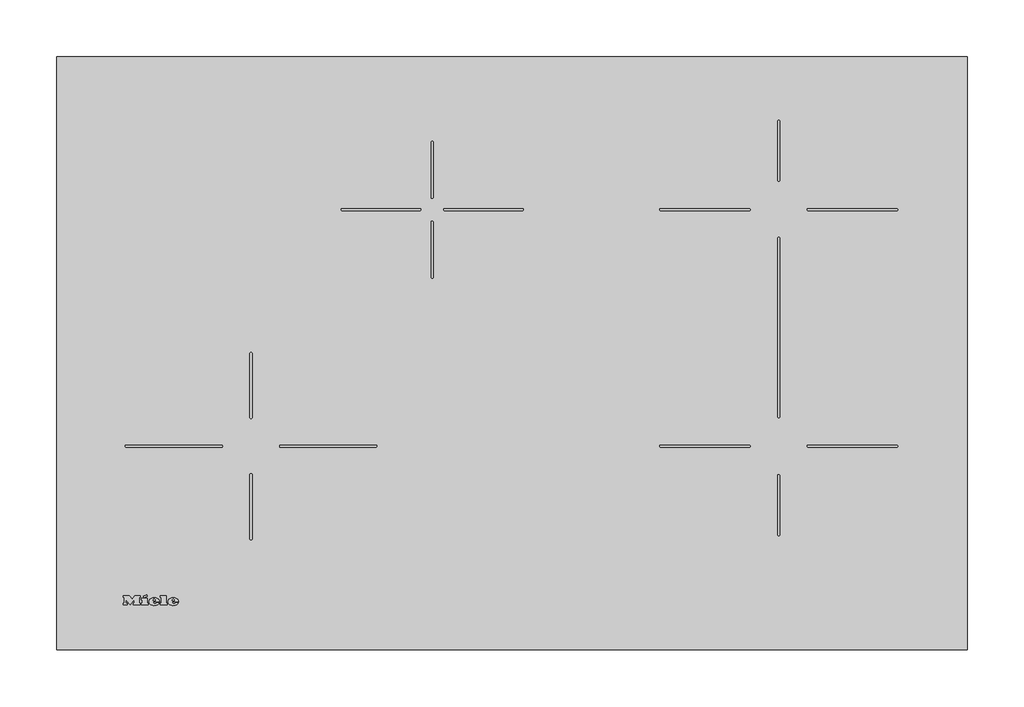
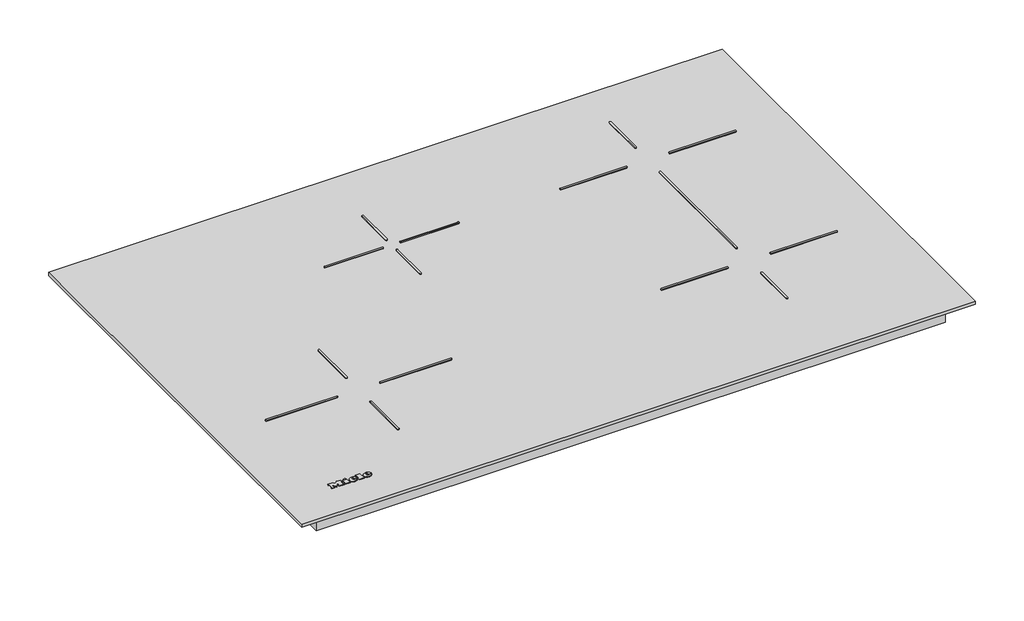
# Not in any storey: 1 proxy.
"""IFC4 building model written with IfcOpenShell, lengths in millimetres."""

import ifcopenshell
import ifcopenshell.guid

model = None  # the IFC model being written
_history = None  # IfcOwnerHistory: only IFC2X3 demands one
_inside = {}  # id of a spatial element -> (the spatial element, [elements in it])
_under = {}  # id of a project, library or spatial element -> (it, [spatial elements below it])
_declared = {}  # id of a project -> (the project, [libraries it declares])
_typed = {}  # id of a type object -> (the type object, [elements of that type])
_made_of = {}  # id of a material, layer set ... -> (it, [elements and type objects made of it])


def new_model(schema):
    """Start an empty IFC model of exactly this schema.

    Asked for "IFC4X3", IfcOpenShell would pick the latest addendum, in which some entities
    have other attributes; the version numbers below select the first issue.
    IFC2X3 requires an IfcOwnerHistory on every rooted entity: one is made here for all.
    """
    global model, _history
    if schema == "IFC4X3":
        model = ifcopenshell.file(schema_version=(4, 3, 0, 0))
    else:
        model = ifcopenshell.file(schema=schema)
    _inside.clear()
    _under.clear()
    _declared.clear()
    _typed.clear()
    _made_of.clear()
    _history = None
    if model.schema == "IFC2X3":
        org = make("IfcOrganization", Name="unknown")
        user = make(
            "IfcPersonAndOrganization",
            ThePerson=make("IfcPerson", FamilyName="unknown"),
            TheOrganization=org,
        )
        app = make(
            "IfcApplication",
            ApplicationDeveloper=org,
            Version="unknown",
            ApplicationFullName="unknown",
            ApplicationIdentifier="unknown",
        )
        _history = make(
            "IfcOwnerHistory",
            OwningUser=user,
            OwningApplication=app,
            ChangeAction="ADDED",
            CreationDate=0,
        )
    return model


def make(cls, **values):
    """One entity of the class cls with the attributes given. An attribute that is None is left unset."""
    return model.create_entity(
        cls, **{name: value for name, value in values.items() if value is not None}
    )


def rooted(cls, **values):
    """An entity with a GlobalId (a new one), such as an element, a storey or a relation."""
    return make(cls, GlobalId=ifcopenshell.guid.new(), OwnerHistory=_history, **values)


def si_unit(unit_type, name, prefix=None):
    """IfcSIUnit, for example si_unit("LENGTHUNIT", "METRE", prefix="MILLI")."""
    return make("IfcSIUnit", UnitType=unit_type, Prefix=prefix, Name=name)


def assignment(units):
    """IfcUnitAssignment: the units of a project."""
    return None if units is None else make("IfcUnitAssignment", Units=units)


def point(xyz):
    """IfcCartesianPoint."""
    return None if xyz is None else make("IfcCartesianPoint", Coordinates=xyz)


def direction(xyz):
    """IfcDirection."""
    return None if xyz is None else make("IfcDirection", DirectionRatios=xyz)


def frame(location, z_axis=None, x_axis=None):
    """IfcAxis2Placement3D, a coordinate frame: its origin and axes. An axis left out is left unset."""
    return make(
        "IfcAxis2Placement3D",
        Location=point(location),
        Axis=direction(z_axis),
        RefDirection=direction(x_axis),
    )


def frame_2d(location, x_axis=None):
    """IfcAxis2Placement2D, a coordinate frame in the plane: its origin and x axis."""
    return make(
        "IfcAxis2Placement2D", Location=point(location), RefDirection=direction(x_axis)
    )


def origin():
    """The frame at (0, 0, 0) with its axes left unset."""
    return frame((0.0, 0.0, 0.0))


def origin_with_axes():
    """The frame at (0, 0, 0) with the z axis (0, 0, 1) and the x axis (1, 0, 0) written out."""
    return frame((0.0, 0.0, 0.0), z_axis=(0.0, 0.0, 1.0), x_axis=(1.0, 0.0, 0.0))


def place(relative_to, where):
    """IfcLocalPlacement: puts the frame where relative to a parent placement (None: the world)."""
    return make(
        "IfcLocalPlacement", PlacementRelTo=relative_to, RelativePlacement=where
    )


def context(
    kind, dimensions, precision=None, world=None, true_north=None, identifier=None
):
    """IfcGeometricRepresentationContext, for example the 3D "Model" context."""
    return make(
        "IfcGeometricRepresentationContext",
        ContextIdentifier=identifier,
        ContextType=kind,
        CoordinateSpaceDimension=dimensions,
        Precision=precision,
        WorldCoordinateSystem=world,
        TrueNorth=true_north,
    )


def project(units=None, contexts=None):
    """IfcProject with its units and contexts."""
    return rooted(
        "IfcProject",
        Name="project",
        RepresentationContexts=contexts,
        UnitsInContext=assignment(units),
    )


def spatial(cls, under=None, at=None, **own):
    """A site, building, storey or space (cls), placed at a placement, below another one or the project."""
    s = rooted(cls, ObjectPlacement=at, **own)
    if under is not None:
        _under.setdefault(under.id(), (under, []))[1].append(s)
    return s


def polyline(points):
    """IfcPolyline through the points."""
    return make("IfcPolyline", Points=[point(p) for p in points])


def circle_curve(where, radius):
    """IfcCircle in the frame where."""
    return make("IfcCircle", Position=where, Radius=radius)


def ellipse_curve(where, semi_axis1, semi_axis2):
    """IfcEllipse in the frame where."""
    return make(
        "IfcEllipse", Position=where, SemiAxis1=semi_axis1, SemiAxis2=semi_axis2
    )


def trimmed(basis, trim1, trim2, sense, master):
    """IfcTrimmedCurve: the piece of a basis curve between two trims."""
    return make(
        "IfcTrimmedCurve",
        BasisCurve=basis,
        Trim1=trim1,
        Trim2=trim2,
        SenseAgreement=sense,
        MasterRepresentation=master,
    )


def segment(curve, same_sense, transition):
    """IfcCompositeCurveSegment."""
    return make(
        "IfcCompositeCurveSegment",
        Transition=transition,
        SameSense=same_sense,
        ParentCurve=curve,
    )


def composite_curve(segments, self_intersect=None):
    """IfcCompositeCurve: segments joined end to end."""
    return make("IfcCompositeCurve", Segments=segments, SelfIntersect=self_intersect)


def outline(outer, holes=None, kind="AREA"):
    """IfcArbitraryClosedProfileDef: a profile drawn as a closed curve; with holes, ...WithVoids."""
    if holes is None:
        return make("IfcArbitraryClosedProfileDef", ProfileType=kind, OuterCurve=outer)
    return make(
        "IfcArbitraryProfileDefWithVoids",
        ProfileType=kind,
        OuterCurve=outer,
        InnerCurves=holes,
    )


def extrude(swept, where, along, depth):
    """IfcExtrudedAreaSolid: the profile swept, set in the frame where, extruded along a direction by depth."""
    return make(
        "IfcExtrudedAreaSolid",
        SweptArea=swept,
        Position=where,
        ExtrudedDirection=direction(along),
        Depth=depth,
    )


def shape(context_of_items, identifier, shape_type, items):
    """IfcShapeRepresentation: the items that make up one representation, for example the "Body"."""
    return make(
        "IfcShapeRepresentation",
        ContextOfItems=context_of_items,
        RepresentationIdentifier=identifier,
        RepresentationType=shape_type,
        Items=items,
    )


def source(mapping_origin, context_of_items, identifier, shape_type, items):
    """IfcRepresentationMap: a shape defined once, which mapped items show again and again."""
    return make(
        "IfcRepresentationMap",
        MappingOrigin=mapping_origin,
        MappedRepresentation=shape(context_of_items, identifier, shape_type, items),
    )


def transform(
    local_origin,
    x_axis=None,
    y_axis=None,
    z_axis=None,
    scale=None,
    scale2=None,
    scale3=None,
    uniform=True,
):
    """IfcCartesianTransformationOperator3D, or its non-uniform kind. x_axis, y_axis, z_axis: its Axis1, 2, 3."""
    if uniform:
        return make(
            "IfcCartesianTransformationOperator3D",
            Axis1=direction(x_axis),
            Axis2=direction(y_axis),
            LocalOrigin=point(local_origin),
            Scale=scale,
            Axis3=direction(z_axis),
        )
    return make(
        "IfcCartesianTransformationOperator3DnonUniform",
        Axis1=direction(x_axis),
        Axis2=direction(y_axis),
        LocalOrigin=point(local_origin),
        Scale=scale,
        Axis3=direction(z_axis),
        Scale2=scale2,
        Scale3=scale3,
    )


def mapped(mapping_source, mapping_target):
    """IfcMappedItem: shows the shape of a source again, moved by a transform."""
    return make(
        "IfcMappedItem", MappingSource=mapping_source, MappingTarget=mapping_target
    )


def made_of(thing, what):
    """Note that an element or type object is made of a material, layer set ...; save() writes the relation."""
    if what is not None:
        _made_of.setdefault(what.id(), (what, []))[1].append(thing)
    return thing


def element(
    cls,
    number,
    at=None,
    inside=None,
    cuts=None,
    type_object=None,
    material=None,
    context=None,
    identifier="Body",
    shape_type=None,
    held_by="IfcProductDefinitionShape",
    body=None,
    shapes=None,
    **own,
):
    """One element of the class cls, such as IfcWall. Its Tag is "e" and its number.

    at: its placement. inside: the storey or other place that contains it. cuts: it is an
    opening in that element (IfcRelVoidsElement). A single representation is given by context,
    identifier, shape_type and body (its items); several are given by shapes. held_by: the class
    of the entity that holds the representations. save() writes the other relations.
    """
    e = rooted(cls, Tag="e%d" % number, ObjectPlacement=at, **own)
    if body is not None:
        shapes = [shape(context, identifier, shape_type, body)]
    if shapes is not None:
        e.Representation = make(held_by, Representations=shapes)
    if inside is not None:
        _inside.setdefault(inside.id(), (inside, []))[1].append(e)
    if cuts is not None:
        rooted(
            "IfcRelVoidsElement", RelatingBuildingElement=cuts, RelatedOpeningElement=e
        )
    if type_object is not None:
        _typed.setdefault(type_object.id(), (type_object, []))[1].append(e)
    return made_of(e, material)


def aggregate(whole, parts):
    """IfcRelAggregates: a whole, such as a stair, and the parts it consists of."""
    return rooted("IfcRelAggregates", RelatingObject=whole, RelatedObjects=parts)


def save(model, path):
    """Write the relations noted so far, then the file.

    IfcRelAggregates (storeys below a building ...), IfcRelContainedInSpatialStructure (elements
    in a storey), IfcRelDefinesByType, IfcRelAssociatesMaterial and IfcRelDeclares: one each for
    every whole, place, type object, material and project.
    """
    for whole, parts in _under.values():
        aggregate(whole, parts)
    for where, things in _inside.values():
        rooted(
            "IfcRelContainedInSpatialStructure",
            RelatedElements=things,
            RelatingStructure=where,
        )
    for kind, things in _typed.values():
        rooted("IfcRelDefinesByType", RelatedObjects=things, RelatingType=kind)
    for what, things in _made_of.values():
        rooted("IfcRelAssociatesMaterial", RelatedObjects=things, RelatingMaterial=what)
    for by, libraries in _declared.values():
        rooted("IfcRelDeclares", RelatingContext=by, RelatedDefinitions=libraries)
    model.write(path)


def plane_surface(at):
    """IfcPlane: the flat surface through the origin of the frame at, square to its z axis."""
    return make("IfcPlane", Position=at)


def cylinder_surface(at, radius):
    """IfcCylindricalSurface: all points at the distance radius from the z axis of the frame at."""
    return make("IfcCylindricalSurface", Position=at, Radius=radius)


def revolved_surface(curve, axis_point, axis_direction):
    """IfcSurfaceOfRevolution: the curve turned about the line through axis_point along axis_direction."""
    return make(
        "IfcSurfaceOfRevolution",
        SweptCurve=make("IfcArbitraryOpenProfileDef", ProfileType="CURVE", Curve=curve),
        AxisPosition=make("IfcAxis1Placement", Location=point(axis_point), Axis=direction(axis_direction)),
    )


def extruded_surface(curve, direction_of_extrusion, depth):
    """IfcSurfaceOfLinearExtrusion: the curve pushed along a direction by depth."""
    return make(
        "IfcSurfaceOfLinearExtrusion",
        SweptCurve=make("IfcArbitraryOpenProfileDef", ProfileType="CURVE", Curve=curve),
        ExtrudedDirection=direction(direction_of_extrusion),
        Depth=depth,
    )


def advanced_brep(points, edges, surfaces, faces):
    """IfcAdvancedBrep: a solid bounded by faces that lie on surfaces and meet in shared edges.

    An edge is (start, end): straight between two places in points (the first is 0);
    or (start, end, curve); or (start, end, curve, False) where it runs against its curve.
    A face is (place in surfaces, loops), or (place, loops, False) where it looks against
    its surface's normal. A loop lists edges by number (the first is 1), with a minus sign
    where the edge is run from its end to its start. The first loop is the outer one.
    """
    corners = [point(p) for p in points]
    vertices = [make("IfcVertexPoint", VertexGeometry=c) for c in corners]
    made = []
    for start, end, *more in edges:
        made.append(
            make(
                "IfcEdgeCurve",
                EdgeStart=vertices[start],
                EdgeEnd=vertices[end],
                EdgeGeometry=more[0] if more else make("IfcPolyline", Points=[corners[start], corners[end]]),
                SameSense=more[1] if len(more) > 1 else True,
            )
        )
    hull = []
    for where, loops, *sense in faces:
        bounds = []
        for j, loop in enumerate(loops):
            ring = [make("IfcOrientedEdge", EdgeElement=made[abs(k) - 1], Orientation=k > 0) for k in loop]
            bounds.append(
                make(
                    "IfcFaceOuterBound" if j == 0 else "IfcFaceBound",
                    Bound=make("IfcEdgeLoop", EdgeList=ring),
                    Orientation=True,
                )
            )
        hull.append(make("IfcAdvancedFace", Bounds=bounds, FaceSurface=surfaces[where], SameSense=sense[0] if sense else True))
    return make("IfcAdvancedBrep", Outer=make("IfcClosedShell", CfsFaces=hull))


def specialty_equipment_3d717bb7(model_context):
    return source(origin(), model_context, "Body", "SolidModel", [
        advanced_brep(
        [(-297.911984, 41.066, 5.0000007), (-297.911984, 41.874, 5.0000007), (-292.559984, 41.874, 5.0000007), (-301.871984, 41.874, 5.0000007), (-299.671984, 39.17, 5.0000007), (-292.695984, 41.066, 5.0000007), (-295.111984, 41.066, 5.0000007), (-297.015984, 40.17, 5.0000007), (-297.911984, 42.898, 5.0000007), (-297.911984, 43.77, 5.0000007), (-296.543984, 43.77, 5.0000007), (-296.543984, 42.898, 5.0000007), (-297.911984, 41.066, 4.0000007), (-297.015984, 40.17, 4.0000007), (-295.111984, 41.066, 4.0000007), (-292.695984, 41.066, 4.0000007), (-299.671984, 39.17, 4.0000007), (-301.871984, 41.874, 4.0000007), (-292.559984, 41.874, 4.0000007), (-297.911984, 41.874, 4.0000007), (-297.911984, 42.898, 4.0000007), (-296.543984, 42.898, 4.0000007), (-296.543984, 43.77, 4.0000007), (-297.911984, 43.77, 4.0000007)],
        [
            (0, 1),
            (1, 2),
            (2, 3, ellipse_curve(frame((-297.215984, 41.874, 5.0000007), z_axis=(0.0, 0.0, 1.0), x_axis=(-1.0, 0.0, 0.0)), 4.656, 3.848)),
            (3, 4, circle_curve(frame((-298.7759404, 42.146, 5.0000007), z_axis=(0.0, 0.0, 1.0), x_axis=(0.0, -1.0, 0.0)), 3.1079688)),
            (4, 5, circle_curve(frame((-297.3091904, 44.258, 5.0000007), z_axis=(0.0, 0.0, 1.0), x_axis=(0.0, -1.0, 0.0)), 5.6098607)),
            (5, 6),
            (6, 7, circle_curve(frame((-296.6249252, 41.81, 5.0000007), z_axis=(0.0, 0.0, -1.0), x_axis=(0.0, -1.0, 0.0)), 1.6859795)),
            (7, 0, circle_curve(frame((-297.015984, 41.066, 5.0000007), z_axis=(0.0, 0.0, -1.0), x_axis=(0.0, -1.0, 0.0)), 0.896)),
            (8, 9),
            (9, 10, circle_curve(frame((-297.227984, 43.77, 5.0000007), z_axis=(0.0, 0.0, -1.0), x_axis=(0.0, -1.0, 0.0)), 0.684)),
            (10, 11),
            (11, 8),
            (12, 13, circle_curve(frame((-297.015984, 41.066, 4.0000007), z_axis=(0.0, 0.0, 1.0), x_axis=(0.0, -1.0, 0.0)), 0.896)),
            (13, 14, circle_curve(frame((-296.6249252, 41.81, 4.0000007), z_axis=(0.0, 0.0, 1.0), x_axis=(0.0, -1.0, 0.0)), 1.6859795)),
            (14, 15),
            (15, 16, circle_curve(frame((-297.3091904, 44.258, 4.0000007), z_axis=(0.0, 0.0, -1.0), x_axis=(0.0, -1.0, 0.0)), 5.6098607)),
            (16, 17, circle_curve(frame((-298.7759404, 42.146, 4.0000007), z_axis=(0.0, 0.0, -1.0), x_axis=(0.0, -1.0, 0.0)), 3.1079688)),
            (17, 18, ellipse_curve(frame((-297.215984, 41.874, 4.0000007), z_axis=(0.0, 0.0, -1.0), x_axis=(-1.0, 0.0, 0.0)), 4.656, 3.848)),
            (18, 19),
            (19, 12),
            (20, 21),
            (21, 22),
            (22, 23, circle_curve(frame((-297.227984, 43.77, 4.0000007), z_axis=(0.0, 0.0, 1.0), x_axis=(0.0, -1.0, 0.0)), 0.684)),
            (23, 20),
            (0, 12),
            (19, 1),
            (18, 2),
            (5, 15),
            (14, 6),
            (17, 3),
            (13, 7),
            (16, 4),
            (8, 20),
            (23, 9),
            (22, 10),
            (21, 11),
        ],
        [
            plane_surface(frame((-297.911984, 41.874, 5.0000007), z_axis=(0.0, 0.0, 1.0), x_axis=(0.0, 1.0, 0.0))),
            plane_surface(frame((-297.911984, 41.874, 4.0000007), z_axis=(0.0, 0.0, -1.0), x_axis=(0.0, -1.0, 0.0))),
            plane_surface(frame((-297.911984, 41.066, 5.0000007), z_axis=(1.0, 0.0, 0.0), x_axis=(0.0, 0.0, -1.0))),
            plane_surface(frame((-297.911984, 41.874, 5.0000007), z_axis=(0.0, -1.0, 0.0), x_axis=(0.0, 0.0, -1.0))),
            plane_surface(frame((-292.695984, 41.066, 5.0000007), z_axis=(0.0, 1.0, 0.0), x_axis=(0.0, 0.0, -1.0))),
            extruded_surface(trimmed(ellipse_curve(frame((-297.215984, 41.874, 3.0000007), z_axis=(0.0, 0.0, 1.0), x_axis=(-1.0, 0.0, 0.0)), 4.656, 3.848), [point((-292.559984, 41.874, 3.0000007))], [point((-301.871984, 41.874, 3.0000007))], True, "CARTESIAN"), (0.0, 0.0, 1.0), 1.0),
            revolved_surface(polyline([(-296.6249252, 40.1240205, 4.0000007), (-296.6249252, 40.1240205, 5.0000007)]), (-296.6249252, 41.81, 4.0000007), (0.0, 0.0, -1.0)),
            revolved_surface(polyline([(-297.015984, 40.17, 4.0000007), (-297.015984, 40.17, 5.0000007)]), (-297.015984, 41.066, 4.0000007), (0.0, 0.0, -1.0)),
            cylinder_surface(frame((-298.7759404, 42.146, 4.0000007), z_axis=(0.0, 0.0, 1.0), x_axis=(0.0, -1.0, 0.0)), 3.1079688),
            cylinder_surface(frame((-297.3091904, 44.258, 4.0000007), z_axis=(0.0, 0.0, 1.0), x_axis=(0.0, -1.0, 0.0)), 5.6098607),
            plane_surface(frame((-297.911984, 42.898, 5.0000007), z_axis=(1.0, 0.0, 0.0), x_axis=(0.0, 0.0, -1.0))),
            revolved_surface(polyline([(-297.227984, 43.086000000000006, 4.0000007), (-297.227984, 43.086000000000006, 5.0000007)]), (-297.227984, 43.77, 4.0000007), (0.0, 0.0, -1.0)),
            plane_surface(frame((-296.543984, 43.77, 5.0000007), z_axis=(-1.0, 0.0, 0.0), x_axis=(0.0, 0.0, -1.0))),
            plane_surface(frame((-296.543984, 42.898, 5.0000007), z_axis=(0.0, 1.0, 0.0), x_axis=(0.0, 0.0, -1.0))),
        ],
        [
            (0, [[1, 2, 3, 4, 5, 6, 7, 8], [9, 10, 11, 12]]),
            (1, [[13, 14, 15, 16, 17, 18, 19, 20], [21, 22, 23, 24]]),
            (2, [[-1, 25, -20, 26]]),
            (3, [[-2, -26, -19, 27]]),
            (4, [[-6, 28, -15, 29]]),
            (5, [[-3, -27, -18, 30]]),
            (6, [[-7, -29, -14, 31]]),
            (7, [[-8, -31, -13, -25]]),
            (8, [[-4, -30, -17, 32]]),
            (9, [[-5, -32, -16, -28]]),
            (10, [[-9, 33, -24, 34]]),
            (11, [[-10, -34, -23, 35]]),
            (12, [[-11, -35, -22, 36]]),
            (13, [[-12, -36, -21, -33]]),
        ],
    ),
        advanced_brep(
        [(-314.607984, 41.066, 5.0000007), (-314.607984, 41.874, 5.0000007), (-309.255984, 41.874, 5.0000007), (-318.567984, 41.874, 5.0000007), (-316.367984, 39.17, 5.0000007), (-309.391984, 41.066, 5.0000007), (-311.807984, 41.066, 5.0000007), (-313.711984, 40.17, 5.0000007), (-314.607984, 42.898, 5.0000007), (-314.607984, 43.77, 5.0000007), (-313.239984, 43.77, 5.0000007), (-313.239984, 42.898, 5.0000007), (-314.607984, 41.066, 4.0000007), (-313.711984, 40.17, 4.0000007), (-311.807984, 41.066, 4.0000007), (-309.391984, 41.066, 4.0000007), (-316.367984, 39.17, 4.0000007), (-318.567984, 41.874, 4.0000007), (-309.255984, 41.874, 4.0000007), (-314.607984, 41.874, 4.0000007), (-314.607984, 42.898, 4.0000007), (-313.239984, 42.898, 4.0000007), (-313.239984, 43.77, 4.0000007), (-314.607984, 43.77, 4.0000007)],
        [
            (0, 1),
            (1, 2),
            (2, 3, ellipse_curve(frame((-313.911984, 41.874, 5.0000007), z_axis=(0.0, 0.0, 1.0), x_axis=(-1.0, 0.0, 0.0)), 4.656, 3.848)),
            (3, 4, circle_curve(frame((-315.4719404, 42.146, 5.0000007), z_axis=(0.0, 0.0, 1.0), x_axis=(0.0, -1.0, 0.0)), 3.1079688)),
            (4, 5, circle_curve(frame((-314.0051904, 44.258, 5.0000007), z_axis=(0.0, 0.0, 1.0), x_axis=(0.0, -1.0, 0.0)), 5.6098607)),
            (5, 6),
            (6, 7, circle_curve(frame((-313.3209252, 41.81, 5.0000007), z_axis=(0.0, 0.0, -1.0), x_axis=(0.0, -1.0, 0.0)), 1.6859795)),
            (7, 0, circle_curve(frame((-313.711984, 41.066, 5.0000007), z_axis=(0.0, 0.0, -1.0), x_axis=(0.0, -1.0, 0.0)), 0.896)),
            (8, 9),
            (9, 10, circle_curve(frame((-313.923984, 43.77, 5.0000007), z_axis=(0.0, 0.0, -1.0), x_axis=(0.0, -1.0, 0.0)), 0.684)),
            (10, 11),
            (11, 8),
            (12, 13, circle_curve(frame((-313.711984, 41.066, 4.0000007), z_axis=(0.0, 0.0, 1.0), x_axis=(0.0, -1.0, 0.0)), 0.896)),
            (13, 14, circle_curve(frame((-313.3209252, 41.81, 4.0000007), z_axis=(0.0, 0.0, 1.0), x_axis=(0.0, -1.0, 0.0)), 1.6859795)),
            (14, 15),
            (15, 16, circle_curve(frame((-314.0051904, 44.258, 4.0000007), z_axis=(0.0, 0.0, -1.0), x_axis=(0.0, -1.0, 0.0)), 5.6098607)),
            (16, 17, circle_curve(frame((-315.4719404, 42.146, 4.0000007), z_axis=(0.0, 0.0, -1.0), x_axis=(0.0, -1.0, 0.0)), 3.1079688)),
            (17, 18, ellipse_curve(frame((-313.911984, 41.874, 4.0000007), z_axis=(0.0, 0.0, -1.0), x_axis=(-1.0, 0.0, 0.0)), 4.656, 3.848)),
            (18, 19),
            (19, 12),
            (20, 21),
            (21, 22),
            (22, 23, circle_curve(frame((-313.923984, 43.77, 4.0000007), z_axis=(0.0, 0.0, 1.0), x_axis=(0.0, -1.0, 0.0)), 0.684)),
            (23, 20),
            (0, 12),
            (19, 1),
            (18, 2),
            (5, 15),
            (14, 6),
            (17, 3),
            (13, 7),
            (16, 4),
            (8, 20),
            (23, 9),
            (22, 10),
            (21, 11),
        ],
        [
            plane_surface(frame((-314.607984, 41.874, 5.0000007), z_axis=(0.0, 0.0, 1.0), x_axis=(0.0, 1.0, 0.0))),
            plane_surface(frame((-314.607984, 41.874, 4.0000007), z_axis=(0.0, 0.0, -1.0), x_axis=(0.0, -1.0, 0.0))),
            plane_surface(frame((-314.607984, 41.066, 5.0000007), z_axis=(1.0, 0.0, 0.0), x_axis=(0.0, 0.0, -1.0))),
            plane_surface(frame((-314.607984, 41.874, 5.0000007), z_axis=(0.0, -1.0, 0.0), x_axis=(0.0, 0.0, -1.0))),
            plane_surface(frame((-309.391984, 41.066, 5.0000007), z_axis=(0.0, 1.0, 0.0), x_axis=(0.0, 0.0, -1.0))),
            extruded_surface(trimmed(ellipse_curve(frame((-313.911984, 41.874, 3.0000007), z_axis=(0.0, 0.0, 1.0), x_axis=(-1.0, 0.0, 0.0)), 4.656, 3.848), [point((-309.255984, 41.874, 3.0000007))], [point((-318.567984, 41.874, 3.0000007))], True, "CARTESIAN"), (0.0, 0.0, 1.0), 1.0),
            revolved_surface(polyline([(-313.3209252, 40.1240205, 4.0000007), (-313.3209252, 40.1240205, 5.0000007)]), (-313.3209252, 41.81, 4.0000007), (0.0, 0.0, -1.0)),
            revolved_surface(polyline([(-313.711984, 40.17, 4.0000007), (-313.711984, 40.17, 5.0000007)]), (-313.711984, 41.066, 4.0000007), (0.0, 0.0, -1.0)),
            cylinder_surface(frame((-315.4719404, 42.146, 4.0000007), z_axis=(0.0, 0.0, 1.0), x_axis=(0.0, -1.0, 0.0)), 3.1079688),
            cylinder_surface(frame((-314.0051904, 44.258, 4.0000007), z_axis=(0.0, 0.0, 1.0), x_axis=(0.0, -1.0, 0.0)), 5.6098607),
            plane_surface(frame((-314.607984, 42.898, 5.0000007), z_axis=(1.0, 0.0, 0.0), x_axis=(0.0, 0.0, -1.0))),
            revolved_surface(polyline([(-313.923984, 43.086000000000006, 4.0000007), (-313.923984, 43.086000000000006, 5.0000007)]), (-313.923984, 43.77, 4.0000007), (0.0, 0.0, -1.0)),
            plane_surface(frame((-313.239984, 43.77, 5.0000007), z_axis=(-1.0, 0.0, 0.0), x_axis=(0.0, 0.0, -1.0))),
            plane_surface(frame((-313.239984, 42.898, 5.0000007), z_axis=(0.0, 1.0, 0.0), x_axis=(0.0, 0.0, -1.0))),
        ],
        [
            (0, [[1, 2, 3, 4, 5, 6, 7, 8], [9, 10, 11, 12]]),
            (1, [[13, 14, 15, 16, 17, 18, 19, 20], [21, 22, 23, 24]]),
            (2, [[-1, 25, -20, 26]]),
            (3, [[-2, -26, -19, 27]]),
            (4, [[-6, 28, -15, 29]]),
            (5, [[-3, -27, -18, 30]]),
            (6, [[-7, -29, -14, 31]]),
            (7, [[-8, -31, -13, -25]]),
            (8, [[-4, -30, -17, 32]]),
            (9, [[-5, -32, -16, -28]]),
            (10, [[-9, 33, -24, 34]]),
            (11, [[-10, -34, -23, 35]]),
            (12, [[-11, -35, -22, 36]]),
            (13, [[-12, -36, -21, -33]]),
        ],
    ),
        extrude(outline(polyline([(-323.351984, 46.698), (-320.631984, 47.962), (-320.031984, 46.666), (-322.743984, 45.402), (-323.351984, 46.698)])), frame((0.0, 0.0, 4.0000007), z_axis=(0.0, 0.0, 1.0), x_axis=(1.0, 0.0, 0.0)), (0.0, 0.0, 1.0), 1.0),
        extrude(outline(polyline([(-325.327984, 45.226), (-319.943984, 45.226), (-319.943984, 40.514), (-319.015984, 40.514), (-319.015984, 39.17), (-325.327984, 39.17), (-325.327984, 40.514), (-324.375984, 40.514), (-324.375984, 43.794), (-325.327984, 43.794), (-325.327984, 45.226)])), frame((0.0, 0.0, 4.0000007), z_axis=(0.0, 0.0, 1.0), x_axis=(1.0, 0.0, 0.0)), (0.0, 0.0, 1.0), 1.0),
        extrude(outline(polyline([(-308.807984, 45.866), (-308.807984, 47.17), (-303.303984, 47.17), (-303.303984, 40.514), (-302.319984, 40.514), (-302.319984, 39.17), (-308.807984, 39.17), (-308.807984, 40.514), (-307.847984, 40.514), (-307.847984, 45.866), (-308.807984, 45.866)])), frame((0.0, 0.0, 4.0000007), z_axis=(0.0, 0.0, 1.0), x_axis=(1.0, 0.0, 0.0)), (0.0, 0.0, 1.0), 1.0),
        extrude(outline(polyline([(-341.271984, 45.866), (-341.271984, 47.17), (-335.695984, 47.17), (-333.351984, 44.17), (-331.015984, 47.17), (-326.143984, 47.17), (-326.143984, 45.866), (-327.159984, 45.866), (-327.159984, 40.514), (-326.143984, 40.514), (-326.143984, 39.17), (-332.527984, 39.17), (-332.527984, 40.514), (-331.543984, 40.514), (-331.543984, 43.9852223), (-335.135984, 39.17), (-338.711984, 43.9171247), (-338.711984, 40.514), (-337.751984, 40.514), (-337.751984, 39.17), (-341.271984, 39.17), (-341.271984, 40.514), (-340.303984, 40.514), (-340.303984, 45.866), (-341.271984, 45.866)])), frame((0.0, 0.0, 4.0000007), z_axis=(0.0, 0.0, 1.0), x_axis=(1.0, 0.0, 0.0)), (0.0, 0.0, 1.0), 1.0),
        extrude(outline(composite_curve([segment(polyline([(-69.0, 375.0), (-69.0, 327.0)]), True, "CONTINUOUS"), segment(trimmed(circle_curve(frame_2d((-70.0, 327.0)), 1.0), [point((-69.0, 327.0))], [point((-71.0, 327.0))], False, "CARTESIAN"), True, "CONTINUOUS"), segment(polyline([(-71.0, 327.0), (-71.0, 375.0)]), True, "CONTINUOUS"), segment(trimmed(circle_curve(frame_2d((-70.0, 375.0)), 1.0), [point((-71.0, 375.0))], [point((-69.0, 375.0))], False, "CARTESIAN"), True, "CONTINUOUS")], self_intersect=False)), frame((0.0, 0.0, 4.0000007), z_axis=(0.0, 0.0, 1.0), x_axis=(1.0, 0.0, 0.0)), (0.0, 0.0, 1.0), 1.0),
        extrude(outline(composite_curve([segment(trimmed(circle_curve(frame_2d((-59.0, 386.0)), 1.0), [point((-59.0, 385.0))], [point((-59.0, 387.0))], False, "CARTESIAN"), True, "CONTINUOUS"), segment(polyline([(-59.0, 387.0), (9.0, 387.0)]), True, "CONTINUOUS"), segment(trimmed(circle_curve(frame_2d((9.0, 386.0)), 1.0), [point((9.0, 387.0))], [point((9.0, 385.0))], False, "CARTESIAN"), True, "CONTINUOUS"), segment(polyline([(9.0, 385.0), (-59.0, 385.0)]), True, "CONTINUOUS")], self_intersect=False)), frame((0.0, 0.0, 4.0000007), z_axis=(0.0, 0.0, 1.0), x_axis=(1.0, 0.0, 0.0)), (0.0, 0.0, 1.0), 1.0),
        extrude(outline(composite_curve([segment(polyline([(-228.0, 153.2492439), (-228.0, 97.2492439)]), True, "CONTINUOUS"), segment(trimmed(circle_curve(frame_2d((-229.0, 97.2492439)), 1.0), [point((-228.0, 97.2492439))], [point((-230.0, 97.2492439))], False, "CARTESIAN"), True, "CONTINUOUS"), segment(polyline([(-230.0, 97.2492439), (-230.0, 153.2492439)]), True, "CONTINUOUS"), segment(trimmed(circle_curve(frame_2d((-229.0, 153.2492439)), 1.0), [point((-230.0, 153.2492439))], [point((-228.0, 153.2492439))], False, "CARTESIAN"), True, "CONTINUOUS")], self_intersect=False)), frame((0.0, 0.0, 4.0000007), z_axis=(0.0, 0.0, 1.0), x_axis=(1.0, 0.0, 0.0)), (0.0, 0.0, 1.0), 1.0),
        extrude(outline(composite_curve([segment(trimmed(circle_curve(frame_2d((-203.0, 178.5)), 1.0), [point((-203.0, 177.5))], [point((-203.0, 179.5))], False, "CARTESIAN"), True, "CONTINUOUS"), segment(polyline([(-203.0, 179.5), (-119.5, 179.5)]), True, "CONTINUOUS"), segment(trimmed(circle_curve(frame_2d((-119.5, 178.5)), 1.0), [point((-119.5, 179.5))], [point((-119.5, 177.5))], False, "CARTESIAN"), True, "CONTINUOUS"), segment(polyline([(-119.5, 177.5), (-203.0, 177.5)]), True, "CONTINUOUS")], self_intersect=False)), frame((0.0, 0.0, 4.0000007), z_axis=(0.0, 0.0, 1.0), x_axis=(1.0, 0.0, 0.0)), (0.0, 0.0, 1.0), 1.0),
        extrude(outline(composite_curve([segment(polyline([(233.0, 204.5123919), (233.0, 360.739463)]), True, "CONTINUOUS"), segment(trimmed(circle_curve(frame_2d((234.0, 360.739463)), 1.0), [point((233.0, 360.739463))], [point((235.0, 360.739463))], False, "CARTESIAN"), True, "CONTINUOUS"), segment(polyline([(235.0, 360.739463), (235.0, 204.5123919)]), True, "CONTINUOUS"), segment(trimmed(circle_curve(frame_2d((234.0, 204.5123919)), 1.0), [point((235.0, 204.5123919))], [point((233.0, 204.5123919))], False, "CARTESIAN"), True, "CONTINUOUS")], self_intersect=False)), frame((0.0, 0.0, 4.0000007), z_axis=(0.0, 0.0, 1.0), x_axis=(1.0, 0.0, 0.0)), (0.0, 0.0, 1.0), 1.0),
        extrude(outline(composite_curve([segment(trimmed(circle_curve(frame_2d((234.0, 152.520008)), 1.0), [point((233.0, 152.520008))], [point((235.0, 152.520008))], False, "CARTESIAN"), True, "CONTINUOUS"), segment(polyline([(235.0, 152.520008), (235.0, 100.9135338)]), True, "CONTINUOUS"), segment(trimmed(circle_curve(frame_2d((234.0, 100.9135338)), 1.0), [point((235.0, 100.9135338))], [point((233.0, 100.9135338))], False, "CARTESIAN"), True, "CONTINUOUS"), segment(polyline([(233.0, 100.9135338), (233.0, 152.520008)]), True, "CONTINUOUS")], self_intersect=False)), frame((0.0, 0.0, 4.0000007), z_axis=(0.0, 0.0, 1.0), x_axis=(1.0, 0.0, 0.0)), (0.0, 0.0, 1.0), 1.0),
        extrude(outline(composite_curve([segment(trimmed(circle_curve(frame_2d((234.0, 411.979992)), 1.0), [point((235.0, 411.979992))], [point((233.0, 411.979992))], False, "CARTESIAN"), True, "CONTINUOUS"), segment(polyline([(233.0, 411.979992), (233.0, 463.401697)]), True, "CONTINUOUS"), segment(trimmed(circle_curve(frame_2d((234.0, 463.401697)), 1.0), [point((233.0, 463.401697))], [point((235.0, 463.401697))], False, "CARTESIAN"), True, "CONTINUOUS"), segment(polyline([(235.0, 463.401697), (235.0, 411.979992)]), True, "CONTINUOUS")], self_intersect=False)), frame((0.0, 0.0, 4.0000007), z_axis=(0.0, 0.0, 1.0), x_axis=(1.0, 0.0, 0.0)), (0.0, 0.0, 1.0), 1.0),
        extrude(outline(composite_curve([segment(trimmed(circle_curve(frame_2d((259.979992, 386.0)), 1.0), [point((259.979992, 385.0))], [point((259.979992, 387.0))], False, "CARTESIAN"), True, "CONTINUOUS"), segment(polyline([(259.979992, 387.0), (337.401697, 387.0)]), True, "CONTINUOUS"), segment(trimmed(circle_curve(frame_2d((337.401697, 386.0)), 1.0), [point((337.401697, 387.0))], [point((337.401697, 385.0))], False, "CARTESIAN"), True, "CONTINUOUS"), segment(polyline([(337.401697, 385.0), (259.979992, 385.0)]), True, "CONTINUOUS")], self_intersect=False)), frame((0.0, 0.0, 4.0000007), z_axis=(0.0, 0.0, 1.0), x_axis=(1.0, 0.0, 0.0)), (0.0, 0.0, 1.0), 1.0),
        extrude(outline(composite_curve([segment(polyline([(208.020008, 385.0), (130.598303, 385.0)]), True, "CONTINUOUS"), segment(trimmed(circle_curve(frame_2d((130.598303, 386.0)), 1.0), [point((130.598303, 385.0))], [point((130.598303, 387.0))], False, "CARTESIAN"), True, "CONTINUOUS"), segment(polyline([(130.598303, 387.0), (208.020008, 387.0)]), True, "CONTINUOUS"), segment(trimmed(circle_curve(frame_2d((208.020008, 386.0)), 1.0), [point((208.020008, 387.0))], [point((208.020008, 385.0))], False, "CARTESIAN"), True, "CONTINUOUS")], self_intersect=False)), frame((0.0, 0.0, 4.0000007), z_axis=(0.0, 0.0, 1.0), x_axis=(1.0, 0.0, 0.0)), (0.0, 0.0, 1.0), 1.0),
        extrude(outline(composite_curve([segment(trimmed(circle_curve(frame_2d((259.979992, 178.5)), 1.0), [point((259.979992, 177.5))], [point((259.979992, 179.5))], False, "CARTESIAN"), True, "CONTINUOUS"), segment(polyline([(259.979992, 179.5), (337.401697, 179.5)]), True, "CONTINUOUS"), segment(trimmed(circle_curve(frame_2d((337.401697, 178.5)), 1.0), [point((337.401697, 179.5))], [point((337.401697, 177.5))], False, "CARTESIAN"), True, "CONTINUOUS"), segment(polyline([(337.401697, 177.5), (259.979992, 177.5)]), True, "CONTINUOUS")], self_intersect=False)), frame((0.0, 0.0, 4.0000007), z_axis=(0.0, 0.0, 1.0), x_axis=(1.0, 0.0, 0.0)), (0.0, 0.0, 1.0), 1.0),
        extrude(outline(composite_curve([segment(polyline([(208.020008, 177.5), (130.598303, 177.5)]), True, "CONTINUOUS"), segment(trimmed(circle_curve(frame_2d((130.598303, 178.5)), 1.0), [point((130.598303, 177.5))], [point((130.598303, 179.5))], False, "CARTESIAN"), True, "CONTINUOUS"), segment(polyline([(130.598303, 179.5), (208.020008, 179.5)]), True, "CONTINUOUS"), segment(trimmed(circle_curve(frame_2d((208.020008, 178.5)), 1.0), [point((208.020008, 179.5))], [point((208.020008, 177.5))], False, "CARTESIAN"), True, "CONTINUOUS")], self_intersect=False)), frame((0.0, 0.0, 4.0000007), z_axis=(0.0, 0.0, 1.0), x_axis=(1.0, 0.0, 0.0)), (0.0, 0.0, 1.0), 1.0),
        extrude(outline(composite_curve([segment(polyline([(-255.0, 177.5), (-338.5, 177.5)]), True, "CONTINUOUS"), segment(trimmed(circle_curve(frame_2d((-338.5, 178.5)), 1.0), [point((-338.5, 177.5))], [point((-338.5, 179.5))], False, "CARTESIAN"), True, "CONTINUOUS"), segment(polyline([(-338.5, 179.5), (-255.0, 179.5)]), True, "CONTINUOUS"), segment(trimmed(circle_curve(frame_2d((-255.0, 178.5)), 1.0), [point((-255.0, 179.5))], [point((-255.0, 177.5))], False, "CARTESIAN"), True, "CONTINUOUS")], self_intersect=False)), frame((0.0, 0.0, 4.0000007), z_axis=(0.0, 0.0, 1.0), x_axis=(1.0, 0.0, 0.0)), (0.0, 0.0, 1.0), 1.0),
        extrude(outline(composite_curve([segment(trimmed(circle_curve(frame_2d((-229.0, 203.7507561)), 1.0), [point((-228.0, 203.7507561))], [point((-230.0, 203.7507561))], False, "CARTESIAN"), True, "CONTINUOUS"), segment(polyline([(-230.0, 203.7507561), (-230.0, 259.7507561)]), True, "CONTINUOUS"), segment(trimmed(circle_curve(frame_2d((-229.0, 259.7507561)), 1.0), [point((-230.0, 259.7507561))], [point((-228.0, 259.7507561))], False, "CARTESIAN"), True, "CONTINUOUS"), segment(polyline([(-228.0, 259.7507561), (-228.0, 203.7507561)]), True, "CONTINUOUS")], self_intersect=False)), frame((0.0, 0.0, 4.0000007), z_axis=(0.0, 0.0, 1.0), x_axis=(1.0, 0.0, 0.0)), (0.0, 0.0, 1.0), 1.0),
        extrude(outline(composite_curve([segment(trimmed(circle_curve(frame_2d((-70.0, 397.0)), 1.0), [point((-69.0, 397.0))], [point((-71.0, 397.0))], False, "CARTESIAN"), True, "CONTINUOUS"), segment(polyline([(-71.0, 397.0), (-71.0, 445.0)]), True, "CONTINUOUS"), segment(trimmed(circle_curve(frame_2d((-70.0, 445.0)), 1.0), [point((-71.0, 445.0))], [point((-69.0, 445.0))], False, "CARTESIAN"), True, "CONTINUOUS"), segment(polyline([(-69.0, 445.0), (-69.0, 397.0)]), True, "CONTINUOUS")], self_intersect=False)), frame((0.0, 0.0, 4.0000007), z_axis=(0.0, 0.0, 1.0), x_axis=(1.0, 0.0, 0.0)), (0.0, 0.0, 1.0), 1.0),
        extrude(outline(composite_curve([segment(polyline([(-81.0, 385.0), (-149.0, 385.0)]), True, "CONTINUOUS"), segment(trimmed(circle_curve(frame_2d((-149.0, 386.0)), 1.0), [point((-149.0, 385.0))], [point((-149.0, 387.0))], False, "CARTESIAN"), True, "CONTINUOUS"), segment(polyline([(-149.0, 387.0), (-81.0, 387.0)]), True, "CONTINUOUS"), segment(trimmed(circle_curve(frame_2d((-81.0, 386.0)), 1.0), [point((-81.0, 387.0))], [point((-81.0, 385.0))], False, "CARTESIAN"), True, "CONTINUOUS")], self_intersect=False)), frame((0.0, 0.0, 4.0000007), z_axis=(0.0, 0.0, 1.0), x_axis=(1.0, 0.0, 0.0)), (0.0, 0.0, 1.0), 1.0),
        extrude(outline(polyline([(231.7938197, 480.0), (231.7938197, 362.7202614), (234.0, 362.7202614), (234.0, 76.0), (-64.0, 76.0), (-64.0, 480.0), (231.7938197, 480.0)])), frame((0.0, 0.0, -49.1723575), z_axis=(0.0, 0.0, 1.0), x_axis=(1.0, 0.0, 0.0)), (0.0, 0.0, 1.0), 26.1723575),
        extrude(outline(polyline([(373.0, 504.0), (373.0, 16.0), (-373.0, 16.0), (-373.0, 504.0), (373.0, 504.0)])), frame((0.0, 0.0, -23.0), z_axis=(0.0, 0.0, 1.0), x_axis=(1.0, 0.0, 0.0)), (0.0, 0.0, 1.0), 23.0),
        extrude(outline(polyline([(399.25, 520.0), (399.25, 0.0), (-399.25, 0.0), (-399.25, 520.0), (399.25, 520.0)])), origin_with_axes(), (0.0, 0.0, 1.0), 4.0000007),
        extrude(outline(polyline([(234.6227397, 383.1708126), (242.0, 383.1708126), (242.0, 381.9151088), (235.8784436, 381.9151088), (235.8784436, 378.6188861), (241.529111, 378.6188861), (241.529111, 377.3631822), (235.8784436, 377.3631822), (235.8784436, 374.3808855), (241.843037, 374.3808855), (241.843037, 373.1251816), (234.6227397, 373.1251816), (234.6227397, 383.1708126)])), frame((0.0, 0.0, -55.9814925), z_axis=(0.0, 0.0, 1.0), x_axis=(1.0, 0.0, 0.0)), (0.0, 0.0, 1.0), 1.0),
        extrude(outline(polyline([(243.8835558, 383.1708126), (250.1620752, 383.1708126), (250.1620752, 381.9151088), (245.1392597, 381.9151088), (245.1392597, 373.1251816), (243.8835558, 373.1251816), (243.8835558, 383.1708126)])), frame((0.0, 0.0, -55.9814925), z_axis=(0.0, 0.0, 1.0), x_axis=(1.0, 0.0, 0.0)), (0.0, 0.0, 1.0), 1.0),
        advanced_brep(
        [(219.0, 378.1708126, -42.9814925), (219.0, 378.1708126, -26.9814925), (233.7476293, 378.1708126, -42.9814925), (249.7476293, 378.1708126, -26.9814925), (233.7476293, 378.1708126, -54.9814925), (249.7476293, 378.1708126, -54.9814925)],
        [
            (0, 1, circle_curve(frame((219.0, 378.1708126, -34.9814925), z_axis=(-1.0, 0.0, 0.0), x_axis=(0.0, 0.0, 1.0)), 8.0)),
            (1, 0, circle_curve(frame((219.0, 378.1708126, -34.9814925), z_axis=(-1.0, 0.0, 0.0), x_axis=(0.0, 0.0, 1.0)), 8.0)),
            (0, 2),
            (2, 3, ellipse_curve(frame((241.7476293, 378.1708126, -34.9814925), z_axis=(-0.7071067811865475, 0.0, 0.7071067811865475), x_axis=(-0.7071067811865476, 0.0, -0.7071067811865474)), 11.3137085, 8.0)),
            (3, 1),
            (3, 2, ellipse_curve(frame((241.7476293, 378.1708126, -34.9814925), z_axis=(-0.7071067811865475, 0.0, 0.7071067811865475), x_axis=(-0.7071067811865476, 0.0, -0.7071067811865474)), 11.3137085, 8.0)),
            (4, 5, circle_curve(frame((241.7476293, 378.1708126, -54.9814925), z_axis=(0.0, 0.0, -1.0), x_axis=(1.0, 0.0, 0.0)), 8.0)),
            (5, 4, circle_curve(frame((241.7476293, 378.1708126, -54.9814925), z_axis=(0.0, 0.0, -1.0), x_axis=(1.0, 0.0, 0.0)), 8.0)),
            (2, 4),
            (5, 3),
        ],
        [
            plane_surface(frame((219.0, 0.0, -34.9814925), z_axis=(-1.0, 0.0, 0.0), x_axis=(0.0, -1.0, 0.0))),
            cylinder_surface(frame((219.0, 378.1708126, -34.9814925), z_axis=(-1.0, 0.0, 0.0), x_axis=(0.0, 0.0, 1.0)), 8.0),
            plane_surface(frame((241.7476293, 0.0, -54.9814925), z_axis=(0.0, 0.0, -1.0), x_axis=(0.0, -1.0, 0.0))),
            cylinder_surface(frame((241.7476293, 378.1708126, -34.9814925), z_axis=(0.0, 0.0, 1.0), x_axis=(1.0, 0.0, 0.0)), 8.0),
        ],
        [
            (0, [[1, 2]]),
            (1, [[-1, 3, 4, 5]]),
            (1, [[-2, -5, 6, -3]]),
            (2, [[7, 8]]),
            (3, [[-4, 9, -8, 10]]),
            (3, [[-6, -10, -7, -9]]),
        ],
    ),
    ])


model = new_model("IFC4")

# Units and contexts
model_context = context("Model", 3, world=origin())
ifc_project = project(units=[si_unit("LENGTHUNIT", "METRE", prefix="MILLI")], contexts=[model_context])

# Site, building
site = spatial("IfcSite", under=ifc_project)
building = spatial("IfcBuilding", under=site)

# Proxy
placement = place(None, origin())
specialty_equipment_shape = specialty_equipment_3d717bb7(model_context)
element("IfcBuildingElementProxy", 1, Name="12399970_CH_KM7373FL : 26737370_CH_12399970_KM7373FL", ObjectType="12399970_CH_KM7373FL : 26737370_CH_12399970_KM7373FL", at=placement, inside=building, context=model_context, shape_type="MappedRepresentation", body=[
    mapped(specialty_equipment_shape, transform((0.0, 0.0, 0.0), x_axis=(1.0, 0.0, 0.0), y_axis=(0.0, 1.0, 0.0), z_axis=(0.0, 0.0, 1.0))),
])

save(model, "model.ifc")
